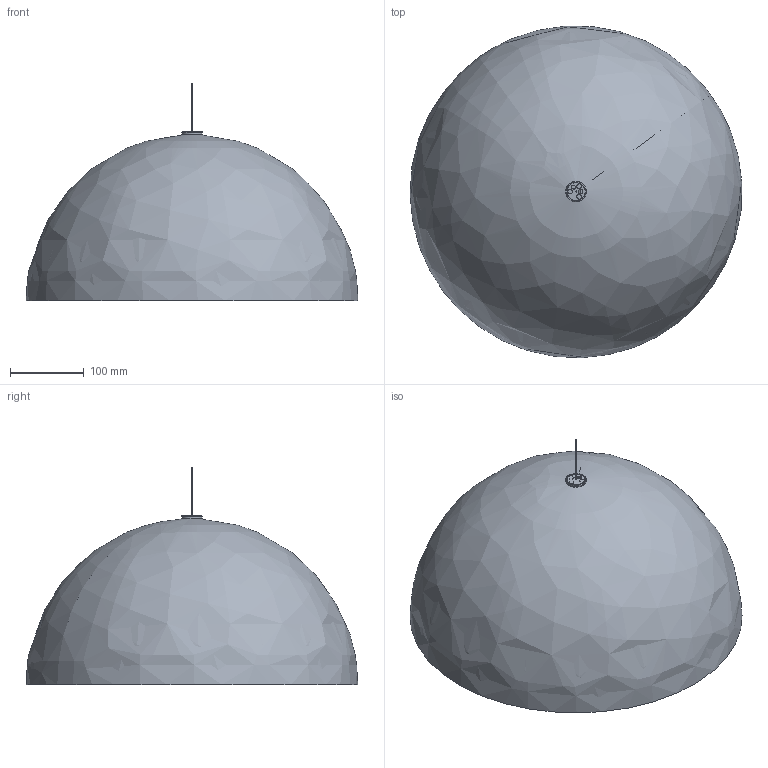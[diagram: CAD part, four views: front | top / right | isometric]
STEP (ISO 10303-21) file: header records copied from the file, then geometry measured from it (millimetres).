
FILE_DESCRIPTION(/* description */ (''),/* implementation_level */ '2;1');
FILE_NAME(/* name */ 'SEM.000243',/* time_stamp */ '2025-04-15T17:27:10+02:00',/* author */ (''),/* organization */ (''),/* preprocessor_version */ 'ST-DEVELOPER v16.5',/* originating_system */ 'Rhino 7.37',/* authorisation */ '');
FILE_SCHEMA (('CONFIG_CONTROL_DESIGN'));
Length unit declared in the file: millimetre
Products named in the file (1): Document
Bounding box: 449.66 x 449.31 x 294.91 mm (x, y, z)
Volume: 738429.5 mm3; surface area: 792618.4 mm2
Topology: 22 solids, 22 shells, 1080 faces, 2973 edges, 1972 vertices
Faces by surface type: bspline 643, plane 246, cylinder 191
Full cylindrical faces by diameter (mm): 1.2 x1, 1.5 x1, 1.7 x1, 2.013 x3, 2.459 x6, 3 x1, 3.1 x3, 3.3 x3, 4 x1, 5 x1, 5.5 x1, 6 x3, 9 x6, 10.6 x6, 12 x6, 14.6 x6, 17 x12, 18 x1, 20 x1, 20.2 x1, 20.5 x2, 24.35 x1, 25 x1, 25.3 x1, 27 x2, 28 x2
Entity records: 55060 total; most frequent: CARTESIAN_POINT 36805, ORIENTED_EDGE 5914, EDGE_CURVE 2957, VERTEX_POINT 1972, B_SPLINE_CURVE_WITH_KNOTS 1811, EDGE_LOOP 1179, ADVANCED_FACE 1080, FACE_OUTER_BOUND 1080
